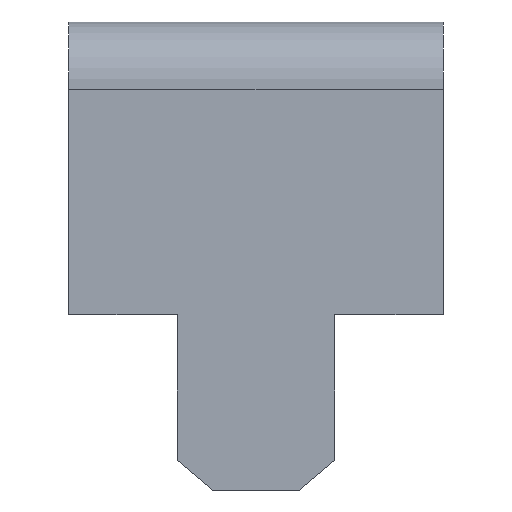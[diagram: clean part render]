
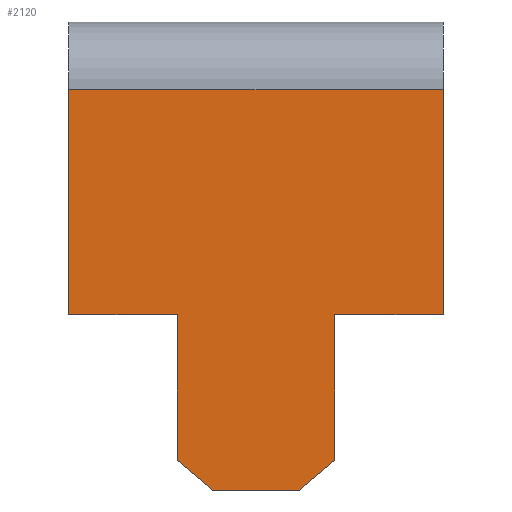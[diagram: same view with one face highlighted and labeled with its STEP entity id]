
A CAD part, front view. The second image highlights one B-rep face of the part: STEP entity #2120.
In plain terms, the highlighted planar face has unit normal (0, -1, 0).
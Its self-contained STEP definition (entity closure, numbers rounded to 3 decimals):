
#1488 = VERTEX_POINT('',#1489);
#1489 = CARTESIAN_POINT('',(-3.2,-5.004,3.848));
#1506 = VERTEX_POINT('',#1507);
#1507 = CARTESIAN_POINT('',(3.2,-5.004,3.848));
#1514 = EDGE_CURVE('',#1488,#1506,#1515,.T.);
#1515 = B_SPLINE_CURVE_WITH_KNOTS('',1,(#1516,#1517),.UNSPECIFIED.,.F.,
  .F.,(2,2),(0.,1.),.PIECEWISE_BEZIER_KNOTS.);
#1516 = CARTESIAN_POINT('',(-3.2,-5.004,3.848));
#1517 = CARTESIAN_POINT('',(3.2,-5.004,3.848));
#1836 = VERTEX_POINT('',#1837);
#1837 = CARTESIAN_POINT('',(-3.2,-5.004,0.));
#1843 = EDGE_CURVE('',#1836,#1488,#1844,.T.);
#1844 = LINE('',#1845,#1846);
#1845 = CARTESIAN_POINT('',(-3.2,-5.004,0.));
#1846 = VECTOR('',#1847,1.);
#1847 = DIRECTION('',(0.,0.,1.));
#1909 = EDGE_CURVE('',#1506,#1910,#1912,.T.);
#1910 = VERTEX_POINT('',#1911);
#1911 = CARTESIAN_POINT('',(3.2,-5.004,0.));
#1912 = LINE('',#1913,#1914);
#1913 = CARTESIAN_POINT('',(3.2,-5.004,3.848));
#1914 = VECTOR('',#1915,1.);
#1915 = DIRECTION('',(0.,0.,-1.));
#2029 = VERTEX_POINT('',#2030);
#2030 = CARTESIAN_POINT('',(-1.346,-5.004,0.));
#2036 = EDGE_CURVE('',#2029,#1836,#2037,.T.);
#2037 = LINE('',#2038,#2039);
#2038 = CARTESIAN_POINT('',(-1.346,-5.004,0.));
#2039 = VECTOR('',#2040,1.);
#2040 = DIRECTION('',(-1.,0.,0.));
#2054 = VERTEX_POINT('',#2055);
#2055 = CARTESIAN_POINT('',(-1.346,-5.004,-2.489));
#2061 = EDGE_CURVE('',#2054,#2029,#2062,.T.);
#2062 = LINE('',#2063,#2064);
#2063 = CARTESIAN_POINT('',(-1.346,-5.004,-2.489));
#2064 = VECTOR('',#2065,1.);
#2065 = DIRECTION('',(0.,0.,1.));
#2077 = VERTEX_POINT('',#2078);
#2078 = CARTESIAN_POINT('',(1.346,-5.004,0.));
#2084 = EDGE_CURVE('',#2077,#2085,#2087,.T.);
#2085 = VERTEX_POINT('',#2086);
#2086 = CARTESIAN_POINT('',(1.346,-5.004,-2.489));
#2087 = LINE('',#2088,#2089);
#2088 = CARTESIAN_POINT('',(1.346,-5.004,0.));
#2089 = VECTOR('',#2090,1.);
#2090 = DIRECTION('',(0.,0.,-1.));
#2109 = EDGE_CURVE('',#1910,#2077,#2110,.T.);
#2110 = LINE('',#2111,#2112);
#2111 = CARTESIAN_POINT('',(3.2,-5.004,0.));
#2112 = VECTOR('',#2113,1.);
#2113 = DIRECTION('',(-1.,0.,0.));
#2120 = ADVANCED_FACE('',(#2121),#2152,.T.);
#2121 = FACE_BOUND('',#2122,.T.);
#2122 = EDGE_LOOP('',(#2123,#2124,#2125,#2133,#2141,#2147,#2148,#2149,
    #2150,#2151));
#2123 = ORIENTED_EDGE('',*,*,#2036,.F.);
#2124 = ORIENTED_EDGE('',*,*,#2061,.F.);
#2125 = ORIENTED_EDGE('',*,*,#2126,.T.);
#2126 = EDGE_CURVE('',#2054,#2127,#2129,.T.);
#2127 = VERTEX_POINT('',#2128);
#2128 = CARTESIAN_POINT('',(-0.747,-5.004,-2.997));
#2129 = LINE('',#2130,#2131);
#2130 = CARTESIAN_POINT('',(-1.346,-5.004,-2.489));
#2131 = VECTOR('',#2132,1.);
#2132 = DIRECTION('',(0.763,0.,-0.647));
#2133 = ORIENTED_EDGE('',*,*,#2134,.T.);
#2134 = EDGE_CURVE('',#2127,#2135,#2137,.T.);
#2135 = VERTEX_POINT('',#2136);
#2136 = CARTESIAN_POINT('',(0.747,-5.004,-2.997));
#2137 = LINE('',#2138,#2139);
#2138 = CARTESIAN_POINT('',(-0.747,-5.004,-2.997));
#2139 = VECTOR('',#2140,1.);
#2140 = DIRECTION('',(1.,0.,0.));
#2141 = ORIENTED_EDGE('',*,*,#2142,.T.);
#2142 = EDGE_CURVE('',#2135,#2085,#2143,.T.);
#2143 = LINE('',#2144,#2145);
#2144 = CARTESIAN_POINT('',(0.747,-5.004,-2.997));
#2145 = VECTOR('',#2146,1.);
#2146 = DIRECTION('',(0.763,0.,0.647));
#2147 = ORIENTED_EDGE('',*,*,#2084,.F.);
#2148 = ORIENTED_EDGE('',*,*,#2109,.F.);
#2149 = ORIENTED_EDGE('',*,*,#1909,.F.);
#2150 = ORIENTED_EDGE('',*,*,#1514,.F.);
#2151 = ORIENTED_EDGE('',*,*,#1843,.F.);
#2152 = PLANE('',#2153);
#2153 = AXIS2_PLACEMENT_3D('',#2154,#2155,#2156);
#2154 = CARTESIAN_POINT('',(0.,-5.004,0.946));
#2155 = DIRECTION('',(-0.,-1.,-0.));
#2156 = DIRECTION('',(0.,0.,-1.));
